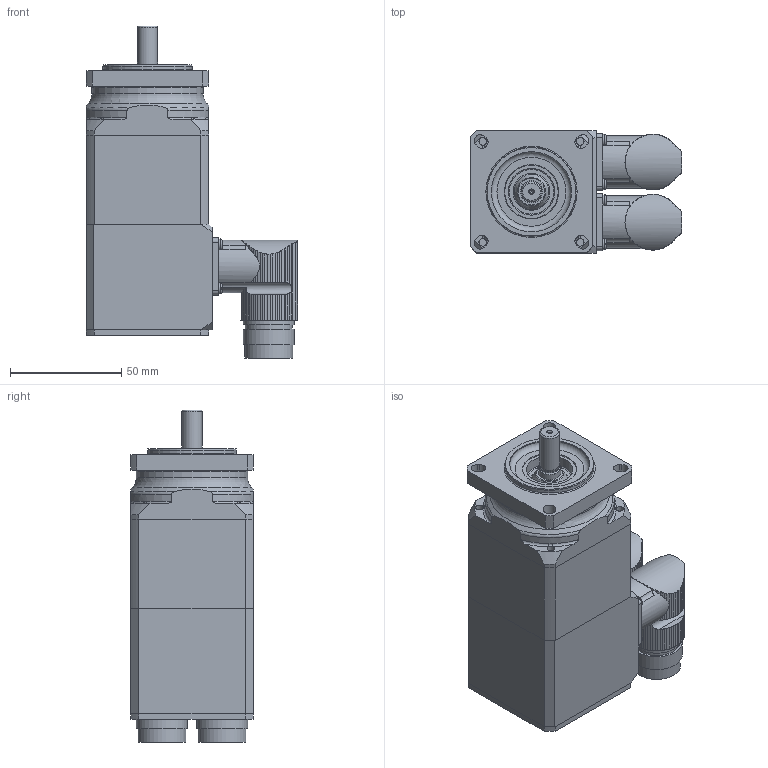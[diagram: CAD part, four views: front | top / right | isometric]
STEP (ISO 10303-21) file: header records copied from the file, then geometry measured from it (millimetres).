
FILE_DESCRIPTION(/* description */ (''),/* implementation_level */ '2;1');
FILE_NAME(/* name */ 'MR 7412-Ux-Nxxx-G01-A0D-M0',/* time_stamp */ '2007-07-13T09:50:00+01:00',/* author */ (''),/* organization */ ('ESR Pollmeier GmbH'),/* preprocessor_version */ 'ST-DEVELOPER v8',/* originating_system */ 'UNIGRAPHICS SOLUTIONS - UNIGRAPHICS 18.0',/* authorisation */ '');
FILE_SCHEMA (('AUTOMOTIVE_DESIGN { 1 2 10303 214 0 1 1 1 }'));
Length unit declared in the file: millimetre
Products named in the file (11): Rotor_SY1_0; Gehaeuse_SY1_40_0; 064223_0; 111001_0; 111002_2; iso2009-m3x8_A; iso1580-m2.5x6_A; 014257_0; 014250_0; DIN3760_org_A10x24x7_0; MR7412-Ux-Nxxx-G01-A0D-M0_0
Assembly tree (20 placements, depth 2):
  MR7412-Ux-Nxxx-G01-A0D-M0_0
    DIN3760_org_A10x24x7_0
    014250_0
    014257_0
    iso1580-m2.5x6_A  x8
    iso2009-m3x8_A  x4
    111002_2
    111001_0
    064223_0
    Gehaeuse_SY1_40_0
    Rotor_SY1_0
Bounding box: 94.99 x 55 x 149.15 mm (x, y, z)
Volume: 188557.1 mm3; surface area: 96674.8 mm2
Topology: 20 solids, 20 shells, 836 faces, 2250 edges, 1474 vertices
Faces by surface type: cylinder 485, plane 212, cone 75, torus 40, sphere 20, bspline 4
Full cylindrical faces by diameter (mm): 1 x16, 1.5 x1, 1.948 x8, 2 x4, 2.135 x8, 2.459 x7, 2.5 x8, 2.7 x8, 3 x4, 3.3 x3, 3.432 x4, 3.5 x4, 4.5 x4, 6 x4, 6.5 x3, 8 x4, 8.52 x1, 9 x1, 10 x2, 10.3 x1, 15 x2, 18 x4, 20 x5, 21 x3, 21.5 x2, 22.5 x1, 23 x4, 24 x2, 26 x2, 36 x1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
Entity records: 23029 total; most frequent: CARTESIAN_POINT 5779, DIRECTION 3506, ORIENTED_EDGE 3320, EDGE_CURVE 1660, AXIS2_PLACEMENT_3D 1488, VERTEX_POINT 1199, EDGE_LOOP 1022, CIRCLE 755
